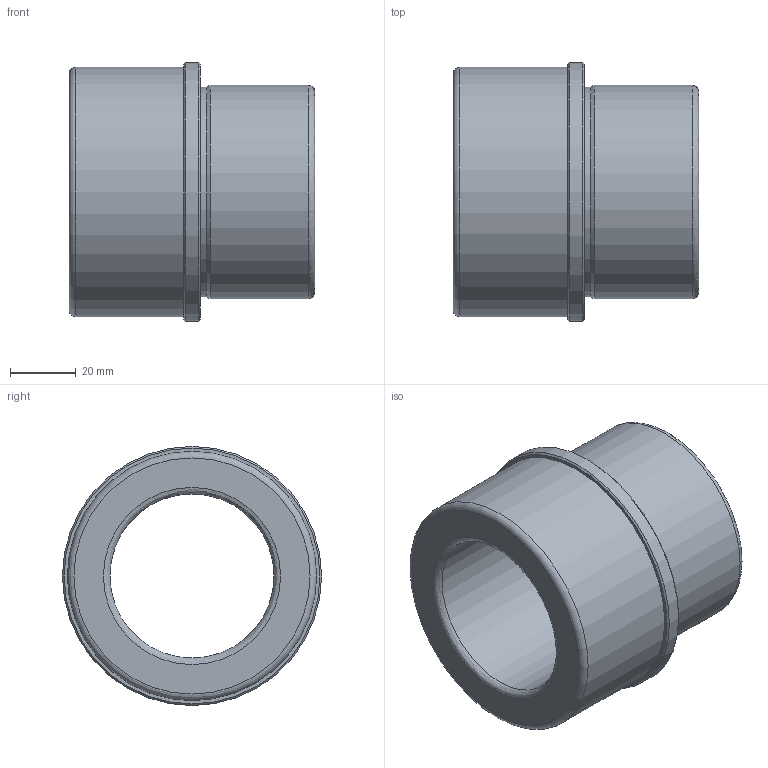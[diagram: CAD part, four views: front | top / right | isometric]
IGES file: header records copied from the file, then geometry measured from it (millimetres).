
Global section: file name: BEG50M.ipt; native system: Autodesk Inventor 2021; preprocessor: unknown; author: SM; date: 20211217.143507; units: millimetre
Bounding box: 75 x 79 x 79 mm (x, y, z)
Volume: 151197.9 mm3; surface area: 33723.4 mm2
Topology: 1 solids, 1 shells, 16 faces, 38 edges, 26 vertices
Faces by surface type: revolution 5, plane 4, cylinder 4, cone 3
Full cylindrical faces by diameter (mm): 64 x1, 65 x1, 76 x1, 79 x1
